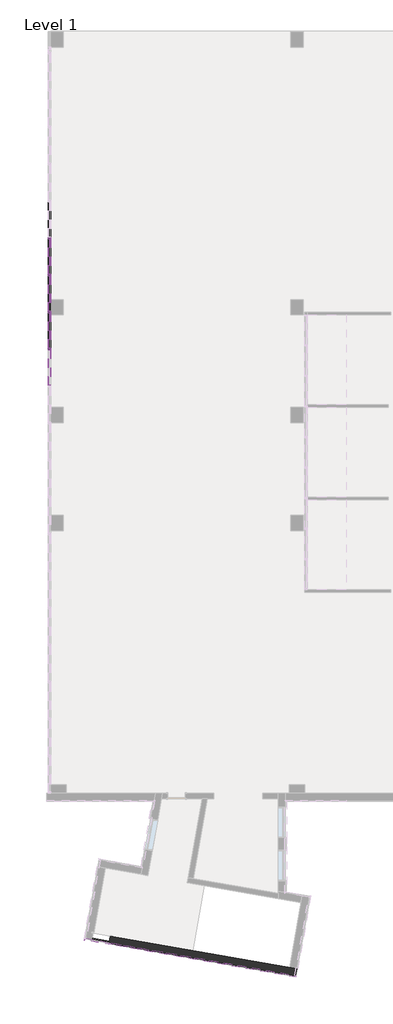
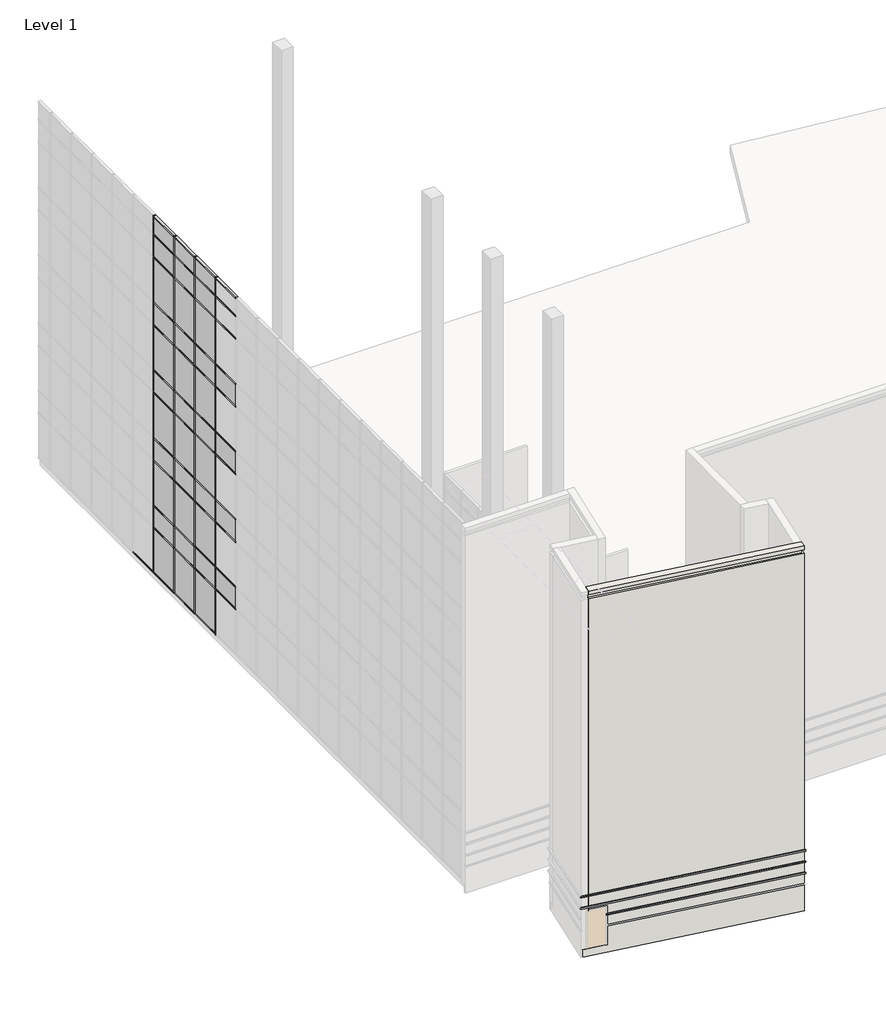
# One storey, part 4 of 23: 72 members, 37 plates, 3 proxies, 1 wall.
"""IFC4 building model written with IfcOpenShell, lengths in millimetres."""

from ifc_helpers import new_model, si_unit, frame, origin, place, context, project, spatial, polyline, outline, extrude, faceted_brep, transform, mapped, element, save
from components import member_f92b8aa2, member_810865a4, member_6d5c3e5e, member_9764dd38, system_panel_glazed_14c75400, system_panel_solid_5dfe6f83, system_panel_solid_e25e2004, system_panel_solid_b7551183

model = new_model("IFC4")

# Units and contexts
model_context = context("Model", 3, world=origin())
ifc_project = project(units=[si_unit("LENGTHUNIT", "METRE", prefix="MILLI")], contexts=[model_context])

# Site, building, storey
site = spatial("IfcSite", under=ifc_project)
building = spatial("IfcBuilding", under=site)
storey = spatial("IfcBuildingStorey", under=building, Name="Level 1", Elevation=0.0)

# Proxies
placement = place(None, origin())
element("IfcBuildingElementProxy", 1, Name="Reveals", at=placement, inside=storey, context=model_context, shape_type="SweptSolid", body=[
    extrude(outline(polyline([(-65796.5031372, -35188.4340603), (-65780.5144812, -35097.7578865), (-56600.3335692, -36716.4714691), (-56525.6460513, -36823.1362989), (-65796.5031372, -35188.4340603)])), frame((0.0, 0.0, 1625.6), z_axis=(0.0, 0.0, 1.0), x_axis=(1.0, 0.0, 0.0)), (0.0, 0.0, 1.0), 67.7333333),
])
element("IfcBuildingElementProxy", 2, Name="Reveals", at=placement, inside=storey, context=model_context, shape_type="SweptSolid", body=[
    extrude(outline(polyline([(-67022.1948666, -34972.3115384), (-66915.5300368, -34897.6240205), (-56600.3335692, -36716.4714691), (-56525.6460513, -36823.1362989), (-67022.1948666, -34972.3115384)])), frame((0.0, 0.0, 2235.2), z_axis=(0.0, 0.0, 1.0), x_axis=(1.0, 0.0, 0.0)), (0.0, 0.0, 1.0), 67.7333333),
])
element("IfcBuildingElementProxy", 3, Name="Reveals", at=placement, inside=storey, context=model_context, shape_type="SweptSolid", body=[
    extrude(outline(polyline([(-67022.1948666, -34972.3115384), (-66915.5300368, -34897.6240205), (-56600.3335692, -36716.4714691), (-56525.6460513, -36823.1362989), (-67022.1948666, -34972.3115384)])), frame((0.0, 0.0, 2844.8), z_axis=(0.0, 0.0, 1.0), x_axis=(1.0, 0.0, 0.0)), (0.0, 0.0, 1.0), 67.7333333),
])

# Members
member_shape = member_f92b8aa2(model_context)
element("IfcMember", 4, ObjectType="Rectangular Mullion : 2.5\" x 5\" rectangular", at=placement, inside=storey, context=model_context, shape_type="MappedRepresentation", body=[
    mapped(member_shape, transform((-68724.2599961, -5768.3103492, 18288.0), x_axis=(0.0, 1.0, 0.0), y_axis=(1.0, 0.0, 0.0), z_axis=(0.0, 0.0, -1.0))),
])
element("IfcMember", 5, ObjectType="Rectangular Mullion : 2.5\" x 5\" rectangular", at=placement, inside=storey, context=model_context, shape_type="MappedRepresentation", body=[
    mapped(member_shape, transform((-68724.2599961, -3939.5103492, 18288.0), x_axis=(0.0, 1.0, 0.0), y_axis=(1.0, 0.0, 0.0), z_axis=(0.0, 0.0, -1.0))),
])
element("IfcMember", 6, ObjectType="Rectangular Mullion : 2.5\" x 5\" rectangular", at=placement, inside=storey, context=model_context, shape_type="MappedRepresentation", body=[
    mapped(member_shape, transform((-68724.2599961, -2110.7103492, 18288.0), x_axis=(0.0, 1.0, 0.0), y_axis=(1.0, 0.0, 0.0), z_axis=(0.0, 0.0, -1.0))),
])
element("IfcMember", 7, ObjectType="Rectangular Mullion : 2.5\" x 5\" rectangular", at=placement, inside=storey, context=model_context, shape_type="MappedRepresentation", body=[
    mapped(member_shape, transform((-68724.2599961, -281.9103492, 18288.0), x_axis=(0.0, 1.0, 0.0), y_axis=(1.0, 0.0, 0.0), z_axis=(0.0, 0.0, -1.0))),
])
member_2_shape = member_810865a4(model_context)
element("IfcMember", 8, ObjectType="Rectangular Mullion : 2.5\" x 5\" rectangular", at=placement, inside=storey, context=model_context, shape_type="MappedRepresentation", body=[
    mapped(member_2_shape, transform((-68724.2599961, -5768.3103492, 3657.6), x_axis=(0.0, 1.0, 0.0), y_axis=(1.0, 0.0, 0.0), z_axis=(0.0, 0.0, -1.0))),
])
element("IfcMember", 9, ObjectType="Rectangular Mullion : 2.5\" x 5\" rectangular", at=placement, inside=storey, context=model_context, shape_type="MappedRepresentation", body=[
    mapped(member_2_shape, transform((-68724.2599961, -3939.5103492, 3657.6), x_axis=(0.0, 1.0, 0.0), y_axis=(1.0, 0.0, 0.0), z_axis=(0.0, 0.0, -1.0))),
])
element("IfcMember", 10, ObjectType="Rectangular Mullion : 2.5\" x 5\" rectangular", at=placement, inside=storey, context=model_context, shape_type="MappedRepresentation", body=[
    mapped(member_2_shape, transform((-68724.2599961, -2110.7103492, 3657.6), x_axis=(0.0, 1.0, 0.0), y_axis=(1.0, 0.0, 0.0), z_axis=(0.0, 0.0, -1.0))),
])
element("IfcMember", 11, ObjectType="Rectangular Mullion : 2.5\" x 5\" rectangular", at=placement, inside=storey, context=model_context, shape_type="MappedRepresentation", body=[
    mapped(member_2_shape, transform((-68724.2599961, -281.9103492, 3657.6), x_axis=(0.0, 1.0, 0.0), y_axis=(1.0, 0.0, 0.0), z_axis=(0.0, 0.0, -1.0))),
])
element("IfcMember", 12, ObjectType="Rectangular Mullion : 2.5\" x 5\" rectangular", at=placement, inside=storey, context=model_context, shape_type="MappedRepresentation", body=[
    mapped(member_2_shape, transform((-68724.2599961, -5768.3103492, 7315.2), x_axis=(0.0, 1.0, 0.0), y_axis=(1.0, 0.0, 0.0), z_axis=(0.0, 0.0, -1.0))),
])
element("IfcMember", 13, ObjectType="Rectangular Mullion : 2.5\" x 5\" rectangular", at=placement, inside=storey, context=model_context, shape_type="MappedRepresentation", body=[
    mapped(member_2_shape, transform((-68724.2599961, -3939.5103492, 7315.2), x_axis=(0.0, 1.0, 0.0), y_axis=(1.0, 0.0, 0.0), z_axis=(0.0, 0.0, -1.0))),
])
element("IfcMember", 14, ObjectType="Rectangular Mullion : 2.5\" x 5\" rectangular", at=placement, inside=storey, context=model_context, shape_type="MappedRepresentation", body=[
    mapped(member_2_shape, transform((-68724.2599961, -2110.7103492, 7315.2), x_axis=(0.0, 1.0, 0.0), y_axis=(1.0, 0.0, 0.0), z_axis=(0.0, 0.0, -1.0))),
])
element("IfcMember", 15, ObjectType="Rectangular Mullion : 2.5\" x 5\" rectangular", at=placement, inside=storey, context=model_context, shape_type="MappedRepresentation", body=[
    mapped(member_2_shape, transform((-68724.2599961, -281.9103492, 7315.2), x_axis=(0.0, 1.0, 0.0), y_axis=(1.0, 0.0, 0.0), z_axis=(0.0, 0.0, -1.0))),
])
element("IfcMember", 16, ObjectType="Rectangular Mullion : 2.5\" x 5\" rectangular", at=placement, inside=storey, context=model_context, shape_type="MappedRepresentation", body=[
    mapped(member_2_shape, transform((-68724.2599961, -5768.3103492, 10972.8), x_axis=(0.0, 1.0, 0.0), y_axis=(1.0, 0.0, 0.0), z_axis=(0.0, 0.0, -1.0))),
])
element("IfcMember", 17, ObjectType="Rectangular Mullion : 2.5\" x 5\" rectangular", at=placement, inside=storey, context=model_context, shape_type="MappedRepresentation", body=[
    mapped(member_2_shape, transform((-68724.2599961, -3939.5103492, 10972.8), x_axis=(0.0, 1.0, 0.0), y_axis=(1.0, 0.0, 0.0), z_axis=(0.0, 0.0, -1.0))),
])
element("IfcMember", 18, ObjectType="Rectangular Mullion : 2.5\" x 5\" rectangular", at=placement, inside=storey, context=model_context, shape_type="MappedRepresentation", body=[
    mapped(member_2_shape, transform((-68724.2599961, -2110.7103492, 10972.8), x_axis=(0.0, 1.0, 0.0), y_axis=(1.0, 0.0, 0.0), z_axis=(0.0, 0.0, -1.0))),
])
element("IfcMember", 19, ObjectType="Rectangular Mullion : 2.5\" x 5\" rectangular", at=placement, inside=storey, context=model_context, shape_type="MappedRepresentation", body=[
    mapped(member_2_shape, transform((-68724.2599961, -281.9103492, 10972.8), x_axis=(0.0, 1.0, 0.0), y_axis=(1.0, 0.0, 0.0), z_axis=(0.0, 0.0, -1.0))),
])
element("IfcMember", 20, ObjectType="Rectangular Mullion : 2.5\" x 5\" rectangular", at=placement, inside=storey, context=model_context, shape_type="MappedRepresentation", body=[
    mapped(member_2_shape, transform((-68724.2599961, -5768.3103492, 14630.4), x_axis=(0.0, 1.0, 0.0), y_axis=(1.0, 0.0, 0.0), z_axis=(0.0, 0.0, -1.0))),
])
element("IfcMember", 21, ObjectType="Rectangular Mullion : 2.5\" x 5\" rectangular", at=placement, inside=storey, context=model_context, shape_type="MappedRepresentation", body=[
    mapped(member_2_shape, transform((-68724.2599961, -3939.5103492, 14630.4), x_axis=(0.0, 1.0, 0.0), y_axis=(1.0, 0.0, 0.0), z_axis=(0.0, 0.0, -1.0))),
])
element("IfcMember", 22, ObjectType="Rectangular Mullion : 2.5\" x 5\" rectangular", at=placement, inside=storey, context=model_context, shape_type="MappedRepresentation", body=[
    mapped(member_2_shape, transform((-68724.2599961, -2110.7103492, 14630.4), x_axis=(0.0, 1.0, 0.0), y_axis=(1.0, 0.0, 0.0), z_axis=(0.0, 0.0, -1.0))),
])
element("IfcMember", 23, ObjectType="Rectangular Mullion : 2.5\" x 5\" rectangular", at=placement, inside=storey, context=model_context, shape_type="MappedRepresentation", body=[
    mapped(member_2_shape, transform((-68724.2599961, -281.9103492, 14630.4), x_axis=(0.0, 1.0, 0.0), y_axis=(1.0, 0.0, 0.0), z_axis=(0.0, 0.0, -1.0))),
])
member_3_shape = member_6d5c3e5e(model_context)
element("IfcMember", 24, ObjectType="Rectangular Mullion : 2.5\" x 5\" rectangular", at=placement, inside=storey, context=model_context, shape_type="MappedRepresentation", body=[
    mapped(member_3_shape, transform((-68724.2599961, -5800.0603492, 19304.0), x_axis=(0.0, 0.0, 1.0), y_axis=(1.0, 0.0, 0.0), z_axis=(0.0, 1.0, 0.0))),
])
element("IfcMember", 25, ObjectType="Rectangular Mullion : 2.5\" x 5\" rectangular", at=placement, inside=storey, context=model_context, shape_type="MappedRepresentation", body=[
    mapped(member_3_shape, transform((-68724.2599961, -3971.2603492, 19304.0), x_axis=(0.0, 0.0, 1.0), y_axis=(1.0, 0.0, 0.0), z_axis=(0.0, 1.0, 0.0))),
])
element("IfcMember", 26, ObjectType="Rectangular Mullion : 2.5\" x 5\" rectangular", at=placement, inside=storey, context=model_context, shape_type="MappedRepresentation", body=[
    mapped(member_3_shape, transform((-68724.2599961, -2142.4603492, 19304.0), x_axis=(0.0, 0.0, 1.0), y_axis=(1.0, 0.0, 0.0), z_axis=(0.0, 1.0, 0.0))),
])
element("IfcMember", 27, ObjectType="Rectangular Mullion : 2.5\" x 5\" rectangular", at=placement, inside=storey, context=model_context, shape_type="MappedRepresentation", body=[
    mapped(member_3_shape, transform((-68724.2599961, -313.6603492, 19304.0), x_axis=(0.0, 0.0, 1.0), y_axis=(1.0, 0.0, 0.0), z_axis=(0.0, 1.0, 0.0))),
])
member_4_shape = member_9764dd38(model_context)
element("IfcMember", 28, ObjectType="Rectangular Mullion : 2.5\" x 5\" rectangular", at=placement, inside=storey, context=model_context, shape_type="MappedRepresentation", body=[
    mapped(member_4_shape, transform((-68724.2599961, -313.6603492, 17068.8), x_axis=(0.0, 0.0, 1.0), y_axis=(1.0, 0.0, 0.0), z_axis=(0.0, 1.0, 0.0))),
])
element("IfcMember", 29, ObjectType="Rectangular Mullion : 2.5\" x 5\" rectangular", at=placement, inside=storey, context=model_context, shape_type="MappedRepresentation", body=[
    mapped(member_4_shape, transform((-68724.2599961, -2142.4603492, 17068.8), x_axis=(0.0, 0.0, 1.0), y_axis=(1.0, 0.0, 0.0), z_axis=(0.0, 1.0, 0.0))),
])
element("IfcMember", 30, ObjectType="Rectangular Mullion : 2.5\" x 5\" rectangular", at=placement, inside=storey, context=model_context, shape_type="MappedRepresentation", body=[
    mapped(member_4_shape, transform((-68724.2599961, -3971.2603492, 17068.8), x_axis=(0.0, 0.0, 1.0), y_axis=(1.0, 0.0, 0.0), z_axis=(0.0, 1.0, 0.0))),
])
element("IfcMember", 31, ObjectType="Rectangular Mullion : 2.5\" x 5\" rectangular", at=placement, inside=storey, context=model_context, shape_type="MappedRepresentation", body=[
    mapped(member_4_shape, transform((-68724.2599961, -5800.0603492, 17068.8), x_axis=(0.0, 0.0, 1.0), y_axis=(1.0, 0.0, 0.0), z_axis=(0.0, 1.0, 0.0))),
])
element("IfcMember", 32, ObjectType="Rectangular Mullion : 2.5\" x 5\" rectangular", at=placement, inside=storey, context=model_context, shape_type="MappedRepresentation", body=[
    mapped(member_4_shape, transform((-68724.2599961, -313.6603492, 13411.2), x_axis=(0.0, 0.0, 1.0), y_axis=(1.0, 0.0, 0.0), z_axis=(0.0, 1.0, 0.0))),
])
element("IfcMember", 33, ObjectType="Rectangular Mullion : 2.5\" x 5\" rectangular", at=placement, inside=storey, context=model_context, shape_type="MappedRepresentation", body=[
    mapped(member_4_shape, transform((-68724.2599961, -2142.4603492, 13411.2), x_axis=(0.0, 0.0, 1.0), y_axis=(1.0, 0.0, 0.0), z_axis=(0.0, 1.0, 0.0))),
])
element("IfcMember", 34, ObjectType="Rectangular Mullion : 2.5\" x 5\" rectangular", at=placement, inside=storey, context=model_context, shape_type="MappedRepresentation", body=[
    mapped(member_4_shape, transform((-68724.2599961, -3971.2603492, 13411.2), x_axis=(0.0, 0.0, 1.0), y_axis=(1.0, 0.0, 0.0), z_axis=(0.0, 1.0, 0.0))),
])
element("IfcMember", 35, ObjectType="Rectangular Mullion : 2.5\" x 5\" rectangular", at=placement, inside=storey, context=model_context, shape_type="MappedRepresentation", body=[
    mapped(member_4_shape, transform((-68724.2599961, -5800.0603492, 13411.2), x_axis=(0.0, 0.0, 1.0), y_axis=(1.0, 0.0, 0.0), z_axis=(0.0, 1.0, 0.0))),
])
element("IfcMember", 36, ObjectType="Rectangular Mullion : 2.5\" x 5\" rectangular", at=placement, inside=storey, context=model_context, shape_type="MappedRepresentation", body=[
    mapped(member_4_shape, transform((-68724.2599961, -313.6603492, 9753.6), x_axis=(0.0, 0.0, 1.0), y_axis=(1.0, 0.0, 0.0), z_axis=(0.0, 1.0, 0.0))),
])
element("IfcMember", 37, ObjectType="Rectangular Mullion : 2.5\" x 5\" rectangular", at=placement, inside=storey, context=model_context, shape_type="MappedRepresentation", body=[
    mapped(member_4_shape, transform((-68724.2599961, -2142.4603492, 9753.6), x_axis=(0.0, 0.0, 1.0), y_axis=(1.0, 0.0, 0.0), z_axis=(0.0, 1.0, 0.0))),
])
element("IfcMember", 38, ObjectType="Rectangular Mullion : 2.5\" x 5\" rectangular", at=placement, inside=storey, context=model_context, shape_type="MappedRepresentation", body=[
    mapped(member_4_shape, transform((-68724.2599961, -3971.2603492, 9753.6), x_axis=(0.0, 0.0, 1.0), y_axis=(1.0, 0.0, 0.0), z_axis=(0.0, 1.0, 0.0))),
])
element("IfcMember", 39, ObjectType="Rectangular Mullion : 2.5\" x 5\" rectangular", at=placement, inside=storey, context=model_context, shape_type="MappedRepresentation", body=[
    mapped(member_4_shape, transform((-68724.2599961, -5800.0603492, 9753.6), x_axis=(0.0, 0.0, 1.0), y_axis=(1.0, 0.0, 0.0), z_axis=(0.0, 1.0, 0.0))),
])
element("IfcMember", 40, ObjectType="Rectangular Mullion : 2.5\" x 5\" rectangular", at=placement, inside=storey, context=model_context, shape_type="MappedRepresentation", body=[
    mapped(member_4_shape, transform((-68724.2599961, -313.6603492, 6096.0), x_axis=(0.0, 0.0, 1.0), y_axis=(1.0, 0.0, 0.0), z_axis=(0.0, 1.0, 0.0))),
])
element("IfcMember", 41, ObjectType="Rectangular Mullion : 2.5\" x 5\" rectangular", at=placement, inside=storey, context=model_context, shape_type="MappedRepresentation", body=[
    mapped(member_4_shape, transform((-68724.2599961, -2142.4603492, 6096.0), x_axis=(0.0, 0.0, 1.0), y_axis=(1.0, 0.0, 0.0), z_axis=(0.0, 1.0, 0.0))),
])
element("IfcMember", 42, ObjectType="Rectangular Mullion : 2.5\" x 5\" rectangular", at=placement, inside=storey, context=model_context, shape_type="MappedRepresentation", body=[
    mapped(member_4_shape, transform((-68724.2599961, -3971.2603492, 6096.0), x_axis=(0.0, 0.0, 1.0), y_axis=(1.0, 0.0, 0.0), z_axis=(0.0, 1.0, 0.0))),
])
element("IfcMember", 43, ObjectType="Rectangular Mullion : 2.5\" x 5\" rectangular", at=placement, inside=storey, context=model_context, shape_type="MappedRepresentation", body=[
    mapped(member_4_shape, transform((-68724.2599961, -5800.0603492, 6096.0), x_axis=(0.0, 0.0, 1.0), y_axis=(1.0, 0.0, 0.0), z_axis=(0.0, 1.0, 0.0))),
])
element("IfcMember", 44, ObjectType="Rectangular Mullion : 2.5\" x 5\" rectangular", at=placement, inside=storey, context=model_context, shape_type="MappedRepresentation", body=[
    mapped(member_4_shape, transform((-68724.2599961, -313.6603492, 2470.15), x_axis=(0.0, 0.0, 1.0), y_axis=(1.0, 0.0, 0.0), z_axis=(0.0, 1.0, 0.0))),
])
element("IfcMember", 45, ObjectType="Rectangular Mullion : 2.5\" x 5\" rectangular", at=placement, inside=storey, context=model_context, shape_type="MappedRepresentation", body=[
    mapped(member_4_shape, transform((-68724.2599961, -2142.4603492, 2470.15), x_axis=(0.0, 0.0, 1.0), y_axis=(1.0, 0.0, 0.0), z_axis=(0.0, 1.0, 0.0))),
])
element("IfcMember", 46, ObjectType="Rectangular Mullion : 2.5\" x 5\" rectangular", at=placement, inside=storey, context=model_context, shape_type="MappedRepresentation", body=[
    mapped(member_4_shape, transform((-68724.2599961, -3971.2603492, 2470.15), x_axis=(0.0, 0.0, 1.0), y_axis=(1.0, 0.0, 0.0), z_axis=(0.0, 1.0, 0.0))),
])
element("IfcMember", 47, ObjectType="Rectangular Mullion : 2.5\" x 5\" rectangular", at=placement, inside=storey, context=model_context, shape_type="MappedRepresentation", body=[
    mapped(member_4_shape, transform((-68724.2599961, -5800.0603492, 2470.15), x_axis=(0.0, 0.0, 1.0), y_axis=(1.0, 0.0, 0.0), z_axis=(0.0, 1.0, 0.0))),
])
element("IfcMember", 48, ObjectType="Rectangular Mullion : 2.5\" x 5\" rectangular", at=placement, inside=storey, context=model_context, shape_type="MappedRepresentation", body=[
    mapped(member_2_shape, transform((-68724.2599961, -5768.3103492, 0.0), x_axis=(0.0, 1.0, 0.0), y_axis=(1.0, 0.0, 0.0), z_axis=(0.0, 0.0, -1.0))),
])
element("IfcMember", 49, ObjectType="Rectangular Mullion : 2.5\" x 5\" rectangular", at=placement, inside=storey, context=model_context, shape_type="MappedRepresentation", body=[
    mapped(member_2_shape, transform((-68724.2599961, -3939.5103492, 0.0), x_axis=(0.0, 1.0, 0.0), y_axis=(1.0, 0.0, 0.0), z_axis=(0.0, 0.0, -1.0))),
])
element("IfcMember", 50, ObjectType="Rectangular Mullion : 2.5\" x 5\" rectangular", at=placement, inside=storey, context=model_context, shape_type="MappedRepresentation", body=[
    mapped(member_2_shape, transform((-68724.2599961, -2110.7103492, 0.0), x_axis=(0.0, 1.0, 0.0), y_axis=(1.0, 0.0, 0.0), z_axis=(0.0, 0.0, -1.0))),
])
element("IfcMember", 51, ObjectType="Rectangular Mullion : 2.5\" x 5\" rectangular", at=placement, inside=storey, context=model_context, shape_type="MappedRepresentation", body=[
    mapped(member_2_shape, transform((-68724.2599961, -281.9103492, 0.0), x_axis=(0.0, 1.0, 0.0), y_axis=(1.0, 0.0, 0.0), z_axis=(0.0, 0.0, -1.0))),
])
element("IfcMember", 52, ObjectType="Rectangular Mullion : 2.5\" x 5\" rectangular", at=placement, inside=storey, context=model_context, shape_type="MappedRepresentation", body=[
    mapped(member_3_shape, transform((-68724.2599961, -5736.5603492, 0.0), x_axis=(0.0, 0.0, -1.0), y_axis=(1.0, 0.0, 0.0), z_axis=(0.0, -1.0, 0.0))),
])
element("IfcMember", 53, ObjectType="Rectangular Mullion : 2.5\" x 5\" rectangular", at=placement, inside=storey, context=model_context, shape_type="MappedRepresentation", body=[
    mapped(member_3_shape, transform((-68724.2599961, -3907.7603492, 0.0), x_axis=(0.0, 0.0, -1.0), y_axis=(1.0, 0.0, 0.0), z_axis=(0.0, -1.0, 0.0))),
])
element("IfcMember", 54, ObjectType="Rectangular Mullion : 2.5\" x 5\" rectangular", at=placement, inside=storey, context=model_context, shape_type="MappedRepresentation", body=[
    mapped(member_3_shape, transform((-68724.2599961, -2078.9603492, 0.0), x_axis=(0.0, 0.0, -1.0), y_axis=(1.0, 0.0, 0.0), z_axis=(0.0, -1.0, 0.0))),
])
element("IfcMember", 55, ObjectType="Rectangular Mullion : 2.5\" x 5\" rectangular", at=placement, inside=storey, context=model_context, shape_type="MappedRepresentation", body=[
    mapped(member_3_shape, transform((-68724.2599961, -250.1603492, 0.0), x_axis=(0.0, 0.0, -1.0), y_axis=(1.0, 0.0, 0.0), z_axis=(0.0, -1.0, 0.0))),
])
element("IfcMember", 56, ObjectType="Rectangular Mullion : 2.5\" x 5\" rectangular", at=placement, inside=storey, context=model_context, shape_type="MappedRepresentation", body=[
    mapped(member_4_shape, transform((-68724.2599961, -5800.0603492, 3657.6), x_axis=(0.0, 0.0, 1.0), y_axis=(1.0, 0.0, 0.0), z_axis=(0.0, 1.0, 0.0))),
])
element("IfcMember", 57, ObjectType="Rectangular Mullion : 2.5\" x 5\" rectangular", at=placement, inside=storey, context=model_context, shape_type="MappedRepresentation", body=[
    mapped(member_4_shape, transform((-68724.2599961, -3971.2603492, 3657.6), x_axis=(0.0, 0.0, 1.0), y_axis=(1.0, 0.0, 0.0), z_axis=(0.0, 1.0, 0.0))),
])
element("IfcMember", 58, ObjectType="Rectangular Mullion : 2.5\" x 5\" rectangular", at=placement, inside=storey, context=model_context, shape_type="MappedRepresentation", body=[
    mapped(member_4_shape, transform((-68724.2599961, -2142.4603492, 3657.6), x_axis=(0.0, 0.0, 1.0), y_axis=(1.0, 0.0, 0.0), z_axis=(0.0, 1.0, 0.0))),
])
element("IfcMember", 59, ObjectType="Rectangular Mullion : 2.5\" x 5\" rectangular", at=placement, inside=storey, context=model_context, shape_type="MappedRepresentation", body=[
    mapped(member_4_shape, transform((-68724.2599961, -313.6603492, 3657.6), x_axis=(0.0, 0.0, 1.0), y_axis=(1.0, 0.0, 0.0), z_axis=(0.0, 1.0, 0.0))),
])
element("IfcMember", 60, ObjectType="Rectangular Mullion : 2.5\" x 5\" rectangular", at=placement, inside=storey, context=model_context, shape_type="MappedRepresentation", body=[
    mapped(member_4_shape, transform((-68724.2599961, -5800.0603492, 7315.2), x_axis=(0.0, 0.0, 1.0), y_axis=(1.0, 0.0, 0.0), z_axis=(0.0, 1.0, 0.0))),
])
element("IfcMember", 61, ObjectType="Rectangular Mullion : 2.5\" x 5\" rectangular", at=placement, inside=storey, context=model_context, shape_type="MappedRepresentation", body=[
    mapped(member_4_shape, transform((-68724.2599961, -3971.2603492, 7315.2), x_axis=(0.0, 0.0, 1.0), y_axis=(1.0, 0.0, 0.0), z_axis=(0.0, 1.0, 0.0))),
])
element("IfcMember", 62, ObjectType="Rectangular Mullion : 2.5\" x 5\" rectangular", at=placement, inside=storey, context=model_context, shape_type="MappedRepresentation", body=[
    mapped(member_4_shape, transform((-68724.2599961, -2142.4603492, 7315.2), x_axis=(0.0, 0.0, 1.0), y_axis=(1.0, 0.0, 0.0), z_axis=(0.0, 1.0, 0.0))),
])
element("IfcMember", 63, ObjectType="Rectangular Mullion : 2.5\" x 5\" rectangular", at=placement, inside=storey, context=model_context, shape_type="MappedRepresentation", body=[
    mapped(member_4_shape, transform((-68724.2599961, -313.6603492, 7315.2), x_axis=(0.0, 0.0, 1.0), y_axis=(1.0, 0.0, 0.0), z_axis=(0.0, 1.0, 0.0))),
])
element("IfcMember", 64, ObjectType="Rectangular Mullion : 2.5\" x 5\" rectangular", at=placement, inside=storey, context=model_context, shape_type="MappedRepresentation", body=[
    mapped(member_4_shape, transform((-68724.2599961, -5800.0603492, 10972.8), x_axis=(0.0, 0.0, 1.0), y_axis=(1.0, 0.0, 0.0), z_axis=(0.0, 1.0, 0.0))),
])
element("IfcMember", 65, ObjectType="Rectangular Mullion : 2.5\" x 5\" rectangular", at=placement, inside=storey, context=model_context, shape_type="MappedRepresentation", body=[
    mapped(member_4_shape, transform((-68724.2599961, -3971.2603492, 10972.8), x_axis=(0.0, 0.0, 1.0), y_axis=(1.0, 0.0, 0.0), z_axis=(0.0, 1.0, 0.0))),
])
element("IfcMember", 66, ObjectType="Rectangular Mullion : 2.5\" x 5\" rectangular", at=placement, inside=storey, context=model_context, shape_type="MappedRepresentation", body=[
    mapped(member_4_shape, transform((-68724.2599961, -2142.4603492, 10972.8), x_axis=(0.0, 0.0, 1.0), y_axis=(1.0, 0.0, 0.0), z_axis=(0.0, 1.0, 0.0))),
])
element("IfcMember", 67, ObjectType="Rectangular Mullion : 2.5\" x 5\" rectangular", at=placement, inside=storey, context=model_context, shape_type="MappedRepresentation", body=[
    mapped(member_4_shape, transform((-68724.2599961, -313.6603492, 10972.8), x_axis=(0.0, 0.0, 1.0), y_axis=(1.0, 0.0, 0.0), z_axis=(0.0, 1.0, 0.0))),
])
element("IfcMember", 68, ObjectType="Rectangular Mullion : 2.5\" x 5\" rectangular", at=placement, inside=storey, context=model_context, shape_type="MappedRepresentation", body=[
    mapped(member_4_shape, transform((-68724.2599961, -5800.0603492, 14630.4), x_axis=(0.0, 0.0, 1.0), y_axis=(1.0, 0.0, 0.0), z_axis=(0.0, 1.0, 0.0))),
])
element("IfcMember", 69, ObjectType="Rectangular Mullion : 2.5\" x 5\" rectangular", at=placement, inside=storey, context=model_context, shape_type="MappedRepresentation", body=[
    mapped(member_4_shape, transform((-68724.2599961, -3971.2603492, 14630.4), x_axis=(0.0, 0.0, 1.0), y_axis=(1.0, 0.0, 0.0), z_axis=(0.0, 1.0, 0.0))),
])
element("IfcMember", 70, ObjectType="Rectangular Mullion : 2.5\" x 5\" rectangular", at=placement, inside=storey, context=model_context, shape_type="MappedRepresentation", body=[
    mapped(member_4_shape, transform((-68724.2599961, -2142.4603492, 14630.4), x_axis=(0.0, 0.0, 1.0), y_axis=(1.0, 0.0, 0.0), z_axis=(0.0, 1.0, 0.0))),
])
element("IfcMember", 71, ObjectType="Rectangular Mullion : 2.5\" x 5\" rectangular", at=placement, inside=storey, context=model_context, shape_type="MappedRepresentation", body=[
    mapped(member_4_shape, transform((-68724.2599961, -313.6603492, 14630.4), x_axis=(0.0, 0.0, 1.0), y_axis=(1.0, 0.0, 0.0), z_axis=(0.0, 1.0, 0.0))),
])
element("IfcMember", 72, ObjectType="Rectangular Mullion : 2.5\" x 5\" rectangular", at=placement, inside=storey, context=model_context, shape_type="MappedRepresentation", body=[
    mapped(member_4_shape, transform((-68724.2599961, -5800.0603492, 18288.0), x_axis=(0.0, 0.0, 1.0), y_axis=(1.0, 0.0, 0.0), z_axis=(0.0, 1.0, 0.0))),
])
element("IfcMember", 73, ObjectType="Rectangular Mullion : 2.5\" x 5\" rectangular", at=placement, inside=storey, context=model_context, shape_type="MappedRepresentation", body=[
    mapped(member_4_shape, transform((-68724.2599961, -3971.2603492, 18288.0), x_axis=(0.0, 0.0, 1.0), y_axis=(1.0, 0.0, 0.0), z_axis=(0.0, 1.0, 0.0))),
])
element("IfcMember", 74, ObjectType="Rectangular Mullion : 2.5\" x 5\" rectangular", at=placement, inside=storey, context=model_context, shape_type="MappedRepresentation", body=[
    mapped(member_4_shape, transform((-68724.2599961, -2142.4603492, 18288.0), x_axis=(0.0, 0.0, 1.0), y_axis=(1.0, 0.0, 0.0), z_axis=(0.0, 1.0, 0.0))),
])
element("IfcMember", 75, ObjectType="Rectangular Mullion : 2.5\" x 5\" rectangular", at=placement, inside=storey, context=model_context, shape_type="MappedRepresentation", body=[
    mapped(member_4_shape, transform((-68724.2599961, -313.6603492, 18288.0), x_axis=(0.0, 0.0, 1.0), y_axis=(1.0, 0.0, 0.0), z_axis=(0.0, 1.0, 0.0))),
])

# Plates
system_panel_glazed_shape = system_panel_glazed_14c75400(model_context)
element("IfcPlate", 76, ObjectType="System Panel : Glazed", at=placement, inside=storey, context=model_context, shape_type="MappedRepresentation", body=[
    mapped(system_panel_glazed_shape, transform((-68724.2599961, -1196.3103492, 14662.15), x_axis=(0.0, 1.0, 0.0), y_axis=(-1.0, 0.0, 0.0), z_axis=(0.0, 0.0, 1.0))),
])
element("IfcPlate", 77, ObjectType="System Panel : Glazed", at=placement, inside=storey, context=model_context, shape_type="MappedRepresentation", body=[
    mapped(system_panel_glazed_shape, transform((-68724.2599961, -3025.1103492, 14662.15), x_axis=(0.0, 1.0, 0.0), y_axis=(-1.0, 0.0, 0.0), z_axis=(0.0, 0.0, 1.0))),
])
element("IfcPlate", 78, ObjectType="System Panel : Glazed", at=placement, inside=storey, context=model_context, shape_type="MappedRepresentation", body=[
    mapped(system_panel_glazed_shape, transform((-68724.2599961, -4853.9103492, 14662.15), x_axis=(0.0, 1.0, 0.0), y_axis=(-1.0, 0.0, 0.0), z_axis=(0.0, 0.0, 1.0))),
])
element("IfcPlate", 79, ObjectType="System Panel : Glazed", at=placement, inside=storey, context=model_context, shape_type="MappedRepresentation", body=[
    mapped(system_panel_glazed_shape, transform((-68724.2599961, -1196.3103492, 11004.55), x_axis=(0.0, 1.0, 0.0), y_axis=(-1.0, 0.0, 0.0), z_axis=(0.0, 0.0, 1.0))),
])
element("IfcPlate", 80, ObjectType="System Panel : Glazed", at=placement, inside=storey, context=model_context, shape_type="MappedRepresentation", body=[
    mapped(system_panel_glazed_shape, transform((-68724.2599961, -3025.1103492, 11004.55), x_axis=(0.0, 1.0, 0.0), y_axis=(-1.0, 0.0, 0.0), z_axis=(0.0, 0.0, 1.0))),
])
element("IfcPlate", 81, ObjectType="System Panel : Glazed", at=placement, inside=storey, context=model_context, shape_type="MappedRepresentation", body=[
    mapped(system_panel_glazed_shape, transform((-68724.2599961, -4853.9103492, 11004.55), x_axis=(0.0, 1.0, 0.0), y_axis=(-1.0, 0.0, 0.0), z_axis=(0.0, 0.0, 1.0))),
])
element("IfcPlate", 82, ObjectType="System Panel : Glazed", at=placement, inside=storey, context=model_context, shape_type="MappedRepresentation", body=[
    mapped(system_panel_glazed_shape, transform((-68724.2599961, -1196.3103492, 7346.95), x_axis=(0.0, 1.0, 0.0), y_axis=(-1.0, 0.0, 0.0), z_axis=(0.0, 0.0, 1.0))),
])
element("IfcPlate", 83, ObjectType="System Panel : Glazed", at=placement, inside=storey, context=model_context, shape_type="MappedRepresentation", body=[
    mapped(system_panel_glazed_shape, transform((-68724.2599961, -3025.1103492, 7346.95), x_axis=(0.0, 1.0, 0.0), y_axis=(-1.0, 0.0, 0.0), z_axis=(0.0, 0.0, 1.0))),
])
element("IfcPlate", 84, ObjectType="System Panel : Glazed", at=placement, inside=storey, context=model_context, shape_type="MappedRepresentation", body=[
    mapped(system_panel_glazed_shape, transform((-68724.2599961, -4853.9103492, 7346.95), x_axis=(0.0, 1.0, 0.0), y_axis=(-1.0, 0.0, 0.0), z_axis=(0.0, 0.0, 1.0))),
])
element("IfcPlate", 85, ObjectType="System Panel : Glazed", at=placement, inside=storey, context=model_context, shape_type="MappedRepresentation", body=[
    mapped(system_panel_glazed_shape, transform((-68724.2599961, -1196.3103492, 3689.35), x_axis=(0.0, 1.0, 0.0), y_axis=(-1.0, 0.0, 0.0), z_axis=(0.0, 0.0, 1.0))),
])
element("IfcPlate", 86, ObjectType="System Panel : Glazed", at=placement, inside=storey, context=model_context, shape_type="MappedRepresentation", body=[
    mapped(system_panel_glazed_shape, transform((-68724.2599961, -3025.1103492, 3689.35), x_axis=(0.0, 1.0, 0.0), y_axis=(-1.0, 0.0, 0.0), z_axis=(0.0, 0.0, 1.0))),
])
element("IfcPlate", 87, ObjectType="System Panel : Glazed", at=placement, inside=storey, context=model_context, shape_type="MappedRepresentation", body=[
    mapped(system_panel_glazed_shape, transform((-68724.2599961, -4853.9103492, 3689.35), x_axis=(0.0, 1.0, 0.0), y_axis=(-1.0, 0.0, 0.0), z_axis=(0.0, 0.0, 1.0))),
])
element("IfcPlate", 88, ObjectType="System Panel : Glazed", at=placement, inside=storey, context=model_context, shape_type="MappedRepresentation", body=[
    mapped(system_panel_glazed_shape, transform((-68724.2599961, -1196.3103492, 63.5), x_axis=(0.0, 1.0, 0.0), y_axis=(-1.0, 0.0, 0.0), z_axis=(0.0, 0.0, 1.0))),
])
element("IfcPlate", 89, ObjectType="System Panel : Glazed", at=placement, inside=storey, context=model_context, shape_type="MappedRepresentation", body=[
    mapped(system_panel_glazed_shape, transform((-68724.2599961, -3025.1103492, 63.5), x_axis=(0.0, 1.0, 0.0), y_axis=(-1.0, 0.0, 0.0), z_axis=(0.0, 0.0, 1.0))),
])
element("IfcPlate", 90, ObjectType="System Panel : Glazed", at=placement, inside=storey, context=model_context, shape_type="MappedRepresentation", body=[
    mapped(system_panel_glazed_shape, transform((-68724.2599961, -4853.9103492, 63.5), x_axis=(0.0, 1.0, 0.0), y_axis=(-1.0, 0.0, 0.0), z_axis=(0.0, 0.0, 1.0))),
])
system_panel_solid_shape = system_panel_solid_5dfe6f83(model_context)
element("IfcPlate", 91, ObjectType="System Panel : Solid", at=placement, inside=storey, context=model_context, shape_type="MappedRepresentation", body=[
    mapped(system_panel_solid_shape, transform((-68724.2599961, -4853.9103492, 18319.75), x_axis=(0.0, 1.0, 0.0), y_axis=(-1.0, 0.0, 0.0), z_axis=(0.0, 0.0, 1.0))),
])
element("IfcPlate", 92, ObjectType="System Panel : Solid", at=placement, inside=storey, context=model_context, shape_type="MappedRepresentation", body=[
    mapped(system_panel_solid_shape, transform((-68724.2599961, -3025.1103492, 18319.75), x_axis=(0.0, 1.0, 0.0), y_axis=(-1.0, 0.0, 0.0), z_axis=(0.0, 0.0, 1.0))),
])
element("IfcPlate", 93, ObjectType="System Panel : Solid", at=placement, inside=storey, context=model_context, shape_type="MappedRepresentation", body=[
    mapped(system_panel_solid_shape, transform((-68724.2599961, -1196.3103492, 18319.75), x_axis=(0.0, 1.0, 0.0), y_axis=(-1.0, 0.0, 0.0), z_axis=(0.0, 0.0, 1.0))),
])
system_panel_solid_2_shape = system_panel_solid_e25e2004(model_context)
element("IfcPlate", 94, ObjectType="System Panel : Solid", at=placement, inside=storey, context=model_context, shape_type="MappedRepresentation", body=[
    mapped(system_panel_solid_2_shape, transform((-68724.2599961, -1196.3103492, 17100.55), x_axis=(0.0, 1.0, 0.0), y_axis=(-1.0, 0.0, 0.0), z_axis=(0.0, 0.0, 1.0))),
])
element("IfcPlate", 95, ObjectType="System Panel : Solid", at=placement, inside=storey, context=model_context, shape_type="MappedRepresentation", body=[
    mapped(system_panel_solid_2_shape, transform((-68724.2599961, -3025.1103492, 17100.55), x_axis=(0.0, 1.0, 0.0), y_axis=(-1.0, 0.0, 0.0), z_axis=(0.0, 0.0, 1.0))),
])
element("IfcPlate", 96, ObjectType="System Panel : Solid", at=placement, inside=storey, context=model_context, shape_type="MappedRepresentation", body=[
    mapped(system_panel_solid_2_shape, transform((-68724.2599961, -4853.9103492, 17100.55), x_axis=(0.0, 1.0, 0.0), y_axis=(-1.0, 0.0, 0.0), z_axis=(0.0, 0.0, 1.0))),
])
element("IfcPlate", 97, ObjectType="System Panel : Solid", at=placement, inside=storey, context=model_context, shape_type="MappedRepresentation", body=[
    mapped(system_panel_solid_2_shape, transform((-68724.2599961, -1196.3103492, 13442.95), x_axis=(0.0, 1.0, 0.0), y_axis=(-1.0, 0.0, 0.0), z_axis=(0.0, 0.0, 1.0))),
])
element("IfcPlate", 98, ObjectType="System Panel : Solid", at=placement, inside=storey, context=model_context, shape_type="MappedRepresentation", body=[
    mapped(system_panel_solid_2_shape, transform((-68724.2599961, -3025.1103492, 13442.95), x_axis=(0.0, 1.0, 0.0), y_axis=(-1.0, 0.0, 0.0), z_axis=(0.0, 0.0, 1.0))),
])
element("IfcPlate", 99, ObjectType="System Panel : Solid", at=placement, inside=storey, context=model_context, shape_type="MappedRepresentation", body=[
    mapped(system_panel_solid_2_shape, transform((-68724.2599961, -4853.9103492, 13442.95), x_axis=(0.0, 1.0, 0.0), y_axis=(-1.0, 0.0, 0.0), z_axis=(0.0, 0.0, 1.0))),
])
element("IfcPlate", 100, ObjectType="System Panel : Solid", at=placement, inside=storey, context=model_context, shape_type="MappedRepresentation", body=[
    mapped(system_panel_solid_2_shape, transform((-68724.2599961, -6682.7103492, 13442.95), x_axis=(0.0, 1.0, 0.0), y_axis=(-1.0, 0.0, 0.0), z_axis=(0.0, 0.0, 1.0))),
])
element("IfcPlate", 101, ObjectType="System Panel : Solid", at=placement, inside=storey, context=model_context, shape_type="MappedRepresentation", body=[
    mapped(system_panel_solid_2_shape, transform((-68724.2599961, -1196.3103492, 9785.35), x_axis=(0.0, 1.0, 0.0), y_axis=(-1.0, 0.0, 0.0), z_axis=(0.0, 0.0, 1.0))),
])
element("IfcPlate", 102, ObjectType="System Panel : Solid", at=placement, inside=storey, context=model_context, shape_type="MappedRepresentation", body=[
    mapped(system_panel_solid_2_shape, transform((-68724.2599961, -3025.1103492, 9785.35), x_axis=(0.0, 1.0, 0.0), y_axis=(-1.0, 0.0, 0.0), z_axis=(0.0, 0.0, 1.0))),
])
element("IfcPlate", 103, ObjectType="System Panel : Solid", at=placement, inside=storey, context=model_context, shape_type="MappedRepresentation", body=[
    mapped(system_panel_solid_2_shape, transform((-68724.2599961, -4853.9103492, 9785.35), x_axis=(0.0, 1.0, 0.0), y_axis=(-1.0, 0.0, 0.0), z_axis=(0.0, 0.0, 1.0))),
])
element("IfcPlate", 104, ObjectType="System Panel : Solid", at=placement, inside=storey, context=model_context, shape_type="MappedRepresentation", body=[
    mapped(system_panel_solid_2_shape, transform((-68724.2599961, -6682.7103492, 9785.35), x_axis=(0.0, 1.0, 0.0), y_axis=(-1.0, 0.0, 0.0), z_axis=(0.0, 0.0, 1.0))),
])
element("IfcPlate", 105, ObjectType="System Panel : Solid", at=placement, inside=storey, context=model_context, shape_type="MappedRepresentation", body=[
    mapped(system_panel_solid_2_shape, transform((-68724.2599961, -1196.3103492, 6127.75), x_axis=(0.0, 1.0, 0.0), y_axis=(-1.0, 0.0, 0.0), z_axis=(0.0, 0.0, 1.0))),
])
element("IfcPlate", 106, ObjectType="System Panel : Solid", at=placement, inside=storey, context=model_context, shape_type="MappedRepresentation", body=[
    mapped(system_panel_solid_2_shape, transform((-68724.2599961, -3025.1103492, 6127.75), x_axis=(0.0, 1.0, 0.0), y_axis=(-1.0, 0.0, 0.0), z_axis=(0.0, 0.0, 1.0))),
])
element("IfcPlate", 107, ObjectType="System Panel : Solid", at=placement, inside=storey, context=model_context, shape_type="MappedRepresentation", body=[
    mapped(system_panel_solid_2_shape, transform((-68724.2599961, -4853.9103492, 6127.75), x_axis=(0.0, 1.0, 0.0), y_axis=(-1.0, 0.0, 0.0), z_axis=(0.0, 0.0, 1.0))),
])
element("IfcPlate", 108, ObjectType="System Panel : Solid", at=placement, inside=storey, context=model_context, shape_type="MappedRepresentation", body=[
    mapped(system_panel_solid_2_shape, transform((-68724.2599961, -6682.7103492, 6127.75), x_axis=(0.0, 1.0, 0.0), y_axis=(-1.0, 0.0, 0.0), z_axis=(0.0, 0.0, 1.0))),
])
system_panel_solid_3_shape = system_panel_solid_b7551183(model_context)
element("IfcPlate", 109, ObjectType="System Panel : Solid", at=placement, inside=storey, context=model_context, shape_type="MappedRepresentation", body=[
    mapped(system_panel_solid_3_shape, transform((-68724.2599961, -1196.3103492, 2501.9), x_axis=(0.0, 1.0, 0.0), y_axis=(-1.0, 0.0, 0.0), z_axis=(0.0, 0.0, 1.0))),
])
element("IfcPlate", 110, ObjectType="System Panel : Solid", at=placement, inside=storey, context=model_context, shape_type="MappedRepresentation", body=[
    mapped(system_panel_solid_3_shape, transform((-68724.2599961, -3025.1103492, 2501.9), x_axis=(0.0, 1.0, 0.0), y_axis=(-1.0, 0.0, 0.0), z_axis=(0.0, 0.0, 1.0))),
])
element("IfcPlate", 111, ObjectType="System Panel : Solid", at=placement, inside=storey, context=model_context, shape_type="MappedRepresentation", body=[
    mapped(system_panel_solid_3_shape, transform((-68724.2599961, -4853.9103492, 2501.9), x_axis=(0.0, 1.0, 0.0), y_axis=(-1.0, 0.0, 0.0), z_axis=(0.0, 0.0, 1.0))),
])
element("IfcPlate", 112, ObjectType="System Panel : Solid", at=placement, inside=storey, context=model_context, shape_type="MappedRepresentation", body=[
    mapped(system_panel_solid_3_shape, transform((-68724.2599961, -6682.7103492, 2501.9), x_axis=(0.0, 1.0, 0.0), y_axis=(-1.0, 0.0, 0.0), z_axis=(0.0, 0.0, 1.0))),
])

# Wall
element("IfcWall", 113, ObjectType="Exterior - Brick and CMU on MTL. Stud", at=placement, inside=storey, context=model_context, shape_type="Brep", body=[
    faceted_brep([(-56579.730116, -36745.8962497, 19304.0), (-66597.8839451, -34979.4254327, 19304.0), (-66597.8839451, -34979.4254327, 19100.8), (-56579.730116, -36745.8962497, 19100.8), (-66597.8839451, -34979.4254327, 2032.0), (-65784.925145, -35122.7720034, 2032.0), (-65784.925145, -35122.7720034, 1693.3333333), (-56579.730116, -36745.8962497, 1693.3333333), (-56579.730116, -36745.8962497, 2235.2), (-66597.8839451, -34979.4254327, 2235.2), (-56579.730116, -36745.8962497, 1625.6), (-65784.925145, -35122.7720034, 1625.6), (-65784.925145, -35122.7720034, 1085.85), (-56579.730116, -36745.8962497, 1085.85), (-56579.730116, -36745.8962497, 1016.0), (-65784.925145, -35122.7720034, 1016.0), (-65784.925145, -35122.7720034, 0.0), (-66635.4051205, -34972.8094372, 0.0), (-66854.2786436, -34934.2161297, 0.0), (-66854.2786436, -34934.2161297, -406.4), (-56579.730116, -36745.8962497, -406.4), (-66597.8839451, -34979.4254327, 2302.9333333), (-56579.730116, -36745.8962497, 2302.9333333), (-56579.730116, -36745.8962497, 2844.8), (-66597.8839451, -34979.4254327, 2844.8), (-66597.8839451, -34979.4254327, 2912.5333333), (-56579.730116, -36745.8962497, 2912.5333333), (-56579.730116, -36745.8962497, 18897.6), (-66597.8839451, -34979.4254327, 18897.6), (-66536.6859861, -34632.3545604, 19304.0), (-56865.6030293, -36337.6274183, 19304.0), (-56518.532157, -36398.8253773, 19304.0), (-56518.532157, -36398.8253773, 19100.8), (-56609.2083309, -36382.8367214, 19100.8), (-56609.2083309, -36382.8367214, 18897.6), (-56518.532157, -36398.8253773, 18897.6), (-56518.532157, -36398.8253773, 2912.5333333), (-56543.5462739, -36394.4147136, 2912.5333333), (-56543.5462739, -36394.4147136, 2844.8), (-56518.532157, -36398.8253773, 2844.8), (-56518.532157, -36398.8253773, 2302.9333333), (-56543.5462739, -36394.4147136, 2302.9333333), (-56543.5462739, -36394.4147136, 2235.2), (-56518.532157, -36398.8253773, 2235.2), (-56518.532157, -36398.8253773, 1693.3333333), (-56543.5462739, -36394.4147136, 1693.3333333), (-56543.5462739, -36394.4147136, 1625.6), (-56518.532157, -36398.8253773, 1625.6), (-56518.532157, -36398.8253773, 1085.85), (-56609.2083309, -36382.8367214, 1085.85), (-56609.2083309, -36382.8367214, 1016.0), (-56518.532157, -36398.8253773, 1016.0), (-56518.532157, -36398.8253773, 0.0), (-56865.6030293, -36337.6274183, 0.0), (-65723.7271859, -34775.701131, 0.0), (-65723.7271859, -34775.701131, 2032.0), (-66536.6859861, -34632.3545604, 2032.0), (-66536.6859861, -34632.3545604, 3222.625), (-61655.8064208, -35492.9853173, 3222.625), (-61655.8064208, -35492.9853173, 3657.6), (-66536.6859861, -34632.3545604, 3657.6), (-66538.8913179, -34644.8616188, 3657.6), (-66538.8913179, -34644.8616188, 3222.625), (-66593.4732814, -34954.4113158, 2235.2), (-66593.4732814, -34954.4113158, 2302.9333333), (-66593.4732814, -34954.4113158, 2844.8), (-66593.4732814, -34954.4113158, 2912.5333333), (-66581.8952891, -34888.7492589, 18897.6), (-66581.8952891, -34888.7492589, 19100.8), (-56563.74146, -36655.2200758, 0.0), (-56563.74146, -36655.2200758, -406.4), (-56654.4176339, -36639.2314199, 0.0), (-65768.936489, -35032.0958295, 0.0), (-65768.936489, -35032.0958295, 1016.0), (-65768.936489, -35032.0958295, 1085.85), (-65780.5144812, -35097.7578865, 1625.6), (-65780.5144812, -35097.7578865, 1693.3333333), (-56600.3335692, -36716.4714691, 1693.3333333), (-56600.3335692, -36716.4714691, 1625.6), (-56600.3335692, -36716.4714691, 2302.9333333), (-56600.3335692, -36716.4714691, 2235.2), (-56600.3335692, -36716.4714691, 2912.5333333), (-56600.3335692, -36716.4714691, 2844.8), (-56654.4176339, -36639.2314199, 1085.85), (-56654.4176339, -36639.2314199, 1016.0), (-56654.4176339, -36639.2314199, 18897.6), (-56654.4176339, -36639.2314199, 19100.8), (-56654.4176339, -36639.2314199, -406.4), (-66838.2899876, -34843.5399558, -406.4), (-66838.2899876, -34843.5399558, 0.0), (-61658.0117526, -35505.4923758, 3222.625), (-61658.0117526, -35505.4923758, 3657.6)], [[[0, 1, 2, 3]], [[4, 5, 6, 7, 8, 9]], [[10, 11, 12, 13]], [[14, 15, 16, 17, 18, 19, 20]], [[21, 22, 23, 24]], [[25, 26, 27, 28]], [[29, 30, 31, 32, 33, 34, 35, 36, 37, 38, 39, 40, 41, 42, 43, 44, 45, 46, 47, 48, 49, 50, 51, 52, 53, 54, 55, 56, 57, 58, 59, 60]], [[1, 0, 31, 30, 29]], [[1, 29, 60, 61, 62, 57, 56, 4, 9, 63, 64, 21, 24, 65, 66, 25, 28, 67, 68, 2]], [[31, 0, 3, 32]], [[7, 44, 43, 8]], [[47, 10, 13, 48]], [[22, 40, 39, 23]], [[26, 36, 35, 27]], [[69, 52, 51, 14, 20, 70]], [[54, 53, 52, 69, 71, 72]], [[55, 5, 4, 56]], [[5, 55, 54, 72, 16, 15, 73, 74, 12, 11, 75, 76, 6]], [[45, 44, 7, 6, 76, 77]], [[47, 46, 78, 75, 11, 10]], [[76, 75, 78, 77]], [[41, 40, 22, 21, 64, 79]], [[43, 42, 80, 63, 9, 8]], [[80, 79, 64, 63]], [[79, 80, 42, 41]], [[37, 36, 26, 25, 66, 81]], [[39, 38, 82, 65, 24, 23]], [[82, 81, 66, 65]], [[81, 82, 38, 37]], [[49, 48, 13, 12, 74, 83]], [[51, 50, 84, 73, 15, 14]], [[74, 73, 84, 83]], [[35, 34, 85, 67, 28, 27]], [[33, 32, 3, 2, 68, 86]], [[85, 86, 68, 67]], [[86, 85, 34, 33]], [[69, 70, 87, 88, 89, 72, 71]], [[70, 20, 19, 88, 87]], [[77, 78, 46, 45]], [[83, 84, 50, 49]], [[89, 18, 17, 16, 72]], [[88, 19, 18, 89]], [[62, 90, 58, 57]], [[59, 91, 61, 60]], [[90, 91, 59, 58]], [[91, 90, 62, 61]]]),
])

save(model, "model.ifc")
